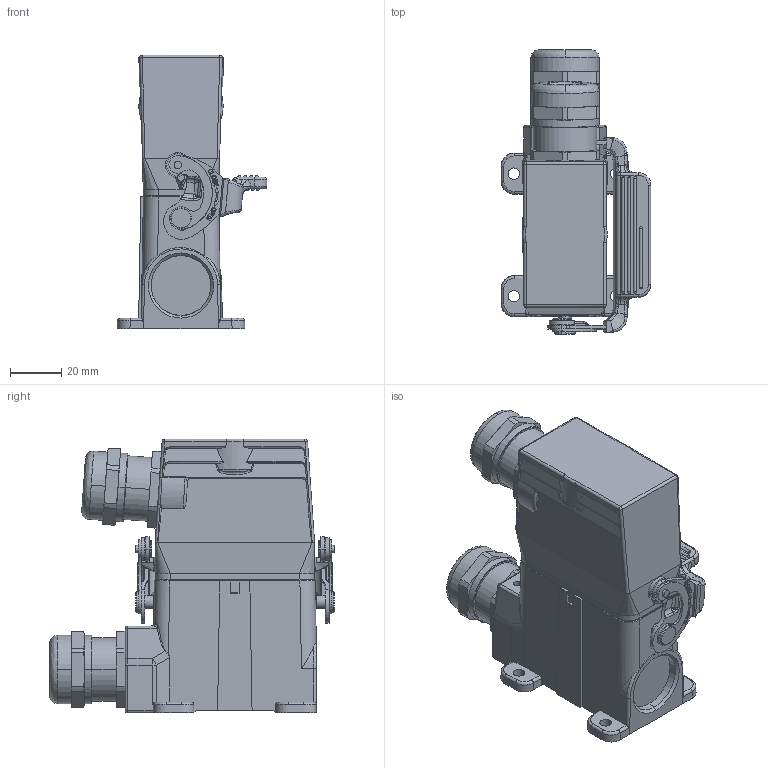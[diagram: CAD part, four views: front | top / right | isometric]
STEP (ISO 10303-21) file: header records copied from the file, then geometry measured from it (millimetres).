
FILE_DESCRIPTION (( 'STEP AP203' ), '1' );
FILE_NAME ('09010003220P H10A HA、10针、表面底座、侧出M20套件.STEP', '2024-04-18T04:50:05', ( 'L' ), ( '' ), 'SwSTEP 2.0', 'SolidWorks 2019', '' );
FILE_SCHEMA (( 'CONFIG_CONTROL_DESIGN' ));
Length unit declared in the file: millimetre
Products named in the file (7): 09010003220 HA、10针、表面底座、侧出M20套件.stp; 09010003220P H10A HA、10针、表面底座、侧出M20套件; HA-010-F_stp.stp; FAS-20-P.step; HA-010-M_stp.stp; H10A-SGR-M20_step.stp; H10A-TS-M20_step.stp
Assembly tree (7 placements, depth 3):
  09010003220P H10A HA、10针、表面底座、侧出M20套件
    09010003220 HA、10针、表面底座、侧出M20套件.stp
      H10A-TS-M20_step.stp
      H10A-SGR-M20_step.stp
      HA-010-F_stp.stp
      HA-010-M_stp.stp
    FAS-20-P.step  x2
Bounding box: 58.61 x 111.45 x 107.3 mm (x, y, z)
Volume: 169068.1 mm3; surface area: 90916.2 mm2
Topology: 8 solids, 26 shells, 3672 faces, 9718 edges, 6236 vertices
Faces by surface type: plane 1817, cylinder 933, bspline 457, cone 297, torus 129, sphere 39
Full cylindrical faces by diameter (mm): 0.4 x2
Entity records: 130751 total; most frequent: CARTESIAN_POINT 44927, ORIENTED_EDGE 18912, DIRECTION 15812, EDGE_CURVE 9456, VERTEX_POINT 6116, LINE 5452, VECTOR 5452, AXIS2_PLACEMENT_3D 5180
